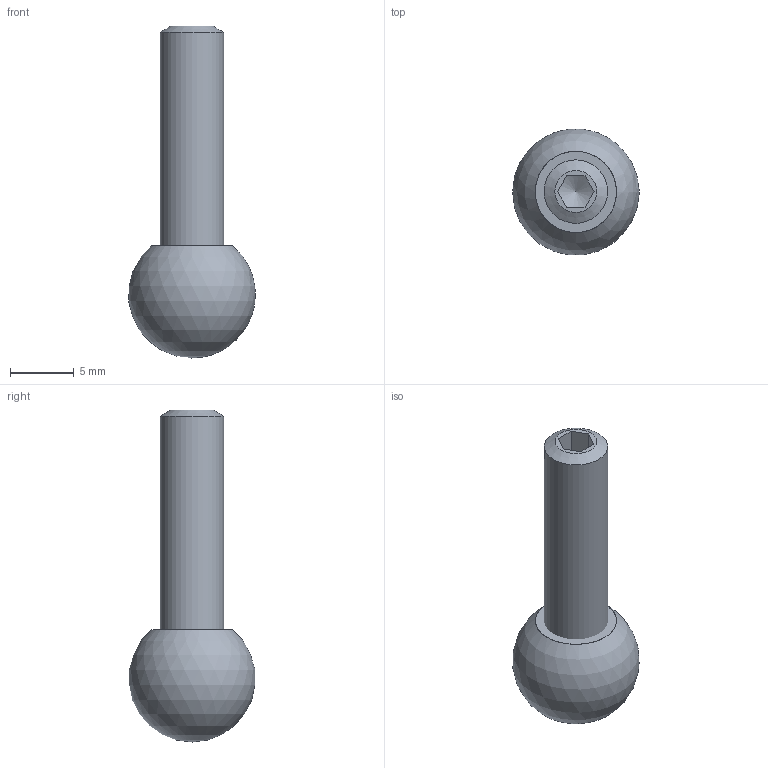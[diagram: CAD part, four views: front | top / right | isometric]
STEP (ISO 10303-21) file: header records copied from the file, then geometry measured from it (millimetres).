
FILE_DESCRIPTION(/* description */ ('','CAx-IF Rec.Pracs.---Representation and Presentation of Product Manufacturing Information (PMI)---3.8---2014-02-18'),/* implementation_level */ '2;1');
FILE_NAME(/* name */ 'E:\Users\CAD5\sito AP\scarica_file\3d\22.70.stp',/* time_stamp */ '2016-08-30T11:13:49+02:00',/* author */ ('CAD5'),/* organization */ (''),/* preprocessor_version */ 'ST-DEVELOPER v16.1',/* originating_system */ 'Autodesk Inventor 2016',/* authorisation */ '');
FILE_SCHEMA (('AP242_MANAGED_MODEL_BASED_3D_ENGINEERING_MIM_LF { 1 0 10303 442 1 1 4 }'));
Length unit declared in the file: millimetre
Products named in the file (5): Sfera Ø10 AISI 316; 22.71; Specialinsert M5 861_0050_80; UNI 5929 - M5 x 25 - 0,8; 22.70
Assembly tree (4 placements, depth 3):
  22.70
    22.71
      Sfera Ø10 AISI 316
    Specialinsert M5 861_0050_80
    UNI 5929 - M5 x 25 - 0,8
Bounding box: 9.97 x 9.9 x 26.14 mm (x, y, z)
Volume: 833.1 mm3; surface area: 1118.5 mm2
Topology: 3 solids, 3 shells, 27 faces, 53 edges, 30 vertices
Faces by surface type: plane 16, cone 5, cylinder 5, sphere 1
Full cylindrical faces by diameter (mm): 4.134 x1, 5 x1, 5.7 x1, 6.4 x2
Entity records: 692 total; most frequent: DIRECTION 126, CARTESIAN_POINT 96, ORIENTED_EDGE 72, AXIS2_PLACEMENT_3D 54, EDGE_LOOP 38, EDGE_CURVE 36, FACE_OUTER_BOUND 27, ADVANCED_FACE 27
